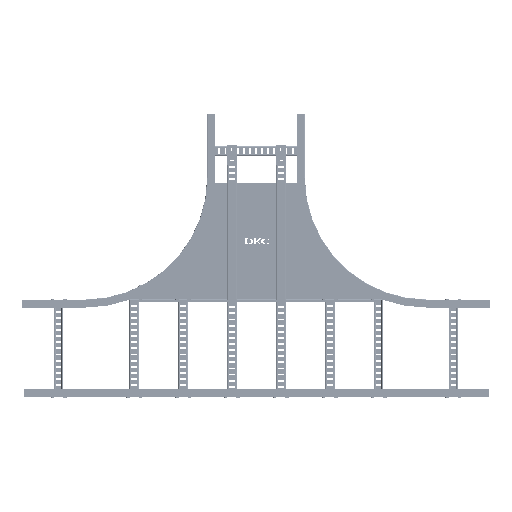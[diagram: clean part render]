
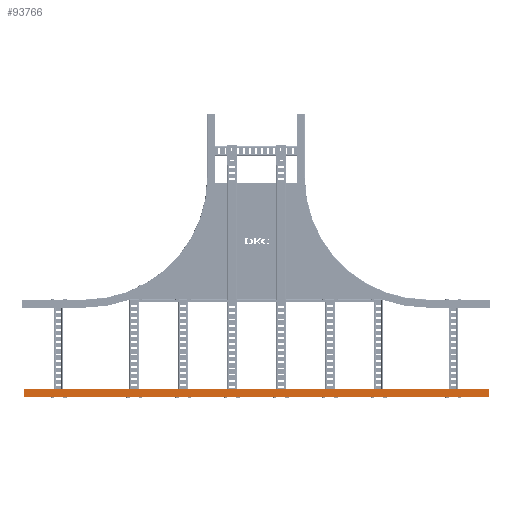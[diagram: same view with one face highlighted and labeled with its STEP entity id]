
A CAD part, front view. The second image highlights one B-rep face of the part: STEP entity #93766.
In plain terms, the highlighted planar face has unit normal (0, -1, 0).
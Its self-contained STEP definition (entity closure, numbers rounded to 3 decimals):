
#628 = VERTEX_POINT ( 'NONE', #136865 ) ;
#1352 = PLANE ( 'NONE',  #147357 ) ;
#2747 = ORIENTED_EDGE ( 'NONE', *, *, #5513, .T. ) ;
#5513 = EDGE_CURVE ( 'NONE', #36193, #628, #20941, .T. ) ;
#12238 = LINE ( 'NONE', #74487, #171295 ) ;
#20880 = CARTESIAN_POINT ( 'NONE',  ( 0., -1.5, -950. ) ) ;
#20941 = LINE ( 'NONE', #127423, #180031 ) ;
#23317 = ORIENTED_EDGE ( 'NONE', *, *, #196659, .F. ) ;
#28190 = CARTESIAN_POINT ( 'NONE',  ( -31.3, -1.5, -950. ) ) ;
#36193 = VERTEX_POINT ( 'NONE', #87066 ) ;
#47179 = CARTESIAN_POINT ( 'NONE',  ( 0., -1.5, -950. ) ) ;
#47852 = DIRECTION ( 'NONE',  ( 0., -1., 0. ) ) ;
#74487 = CARTESIAN_POINT ( 'NONE',  ( 0., -1.5, 950. ) ) ;
#82901 = DIRECTION ( 'NONE',  ( 1., 0., 0. ) ) ;
#87066 = CARTESIAN_POINT ( 'NONE',  ( 0., -1.5, -950. ) ) ;
#91875 = VECTOR ( 'NONE', #120559, 1000. ) ;
#93766 = ADVANCED_FACE ( 'NONE', ( #163136 ), #1352, .T. ) ;
#111713 = EDGE_CURVE ( 'NONE', #132144, #192682, #132832, .T. ) ;
#111750 = VECTOR ( 'NONE', #82901, 1000. ) ;
#114925 = ORIENTED_EDGE ( 'NONE', *, *, #118885, .T. ) ;
#118885 = EDGE_CURVE ( 'NONE', #132144, #36193, #179166, .T. ) ;
#120559 = DIRECTION ( 'NONE',  ( 0., 0., 1. ) ) ;
#127423 = CARTESIAN_POINT ( 'NONE',  ( 0., -1.5, -950. ) ) ;
#132144 = VERTEX_POINT ( 'NONE', #176805 ) ;
#132832 = LINE ( 'NONE', #28190, #91875 ) ;
#133608 = CARTESIAN_POINT ( 'NONE',  ( -31.3, -1.5, 950. ) ) ;
#136865 = CARTESIAN_POINT ( 'NONE',  ( 0., -1.5, 950. ) ) ;
#147357 = AXIS2_PLACEMENT_3D ( 'NONE', #47179, #47852, #155641 ) ;
#155641 = DIRECTION ( 'NONE',  ( 1., 0., 0. ) ) ;
#163136 = FACE_OUTER_BOUND ( 'NONE', #176883, .T. ) ;
#165766 = ORIENTED_EDGE ( 'NONE', *, *, #111713, .F. ) ;
#166722 = DIRECTION ( 'NONE',  ( 1., 0., 0. ) ) ;
#171295 = VECTOR ( 'NONE', #166722, 1000. ) ;
#173806 = DIRECTION ( 'NONE',  ( 0., 0., 1. ) ) ;
#176805 = CARTESIAN_POINT ( 'NONE',  ( -31.3, -1.5, -950. ) ) ;
#176883 = EDGE_LOOP ( 'NONE', ( #23317, #165766, #114925, #2747 ) ) ;
#179166 = LINE ( 'NONE', #20880, #111750 ) ;
#180031 = VECTOR ( 'NONE', #173806, 1000. ) ;
#192682 = VERTEX_POINT ( 'NONE', #133608 ) ;
#196659 = EDGE_CURVE ( 'NONE', #192682, #628, #12238, .T. ) ;
